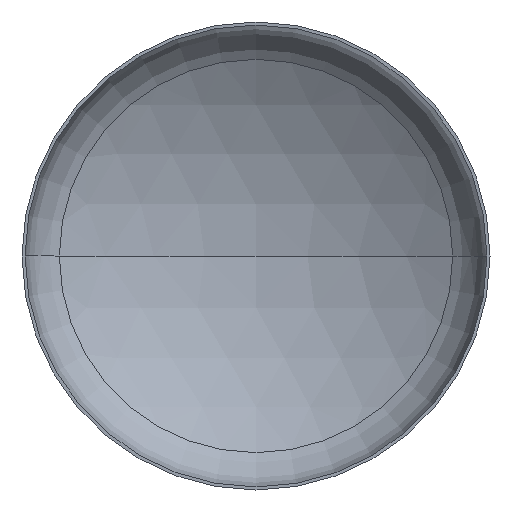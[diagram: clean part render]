
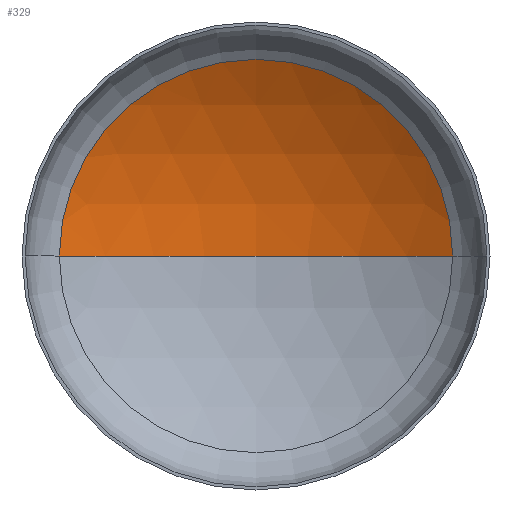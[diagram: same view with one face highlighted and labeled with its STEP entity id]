
A CAD part, front view. The second image highlights one B-rep face of the part: STEP entity #329.
In plain terms, the highlighted spherical face has radius 4800 mm.
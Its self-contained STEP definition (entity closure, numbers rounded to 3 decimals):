
#13 = ORIENTED_EDGE ( 'NONE', *, *, #18, .T. ) ;
#14 = ORIENTED_EDGE ( 'NONE', *, *, #36, .T. ) ;
#18 = EDGE_CURVE ( 'NONE', #62, #73, #206, .T. ) ;
#22 = ORIENTED_EDGE ( 'NONE', *, *, #46, .F. ) ;
#27 = CARTESIAN_POINT ( 'NONE',  ( 0., 1622.364, 0. ) ) ;
#36 = EDGE_CURVE ( 'NONE', #171, #62, #278, .T. ) ;
#46 = EDGE_CURVE ( 'NONE', #171, #73, #125, .T. ) ;
#62 = VERTEX_POINT ( 'NONE', #311 ) ;
#73 = VERTEX_POINT ( 'NONE', #209 ) ;
#89 = EDGE_LOOP ( 'NONE', ( #22, #14, #13 ) ) ;
#125 = CIRCLE ( 'NONE', #408, 4800. ) ;
#139 = AXIS2_PLACEMENT_3D ( 'NONE', #244, #400, #144 ) ;
#144 = DIRECTION ( 'NONE',  ( -1., 0., 0. ) ) ;
#171 = VERTEX_POINT ( 'NONE', #27 ) ;
#206 = CIRCLE ( 'NONE', #379, 2520.774 ) ;
#207 = CARTESIAN_POINT ( 'NONE',  ( 0., -3177.636, 0. ) ) ;
#209 = CARTESIAN_POINT ( 'NONE',  ( -2520.774, 907.178, 0. ) ) ;
#214 = SPHERICAL_SURFACE ( 'NONE', #139, 4800. ) ;
#215 = DIRECTION ( 'NONE',  ( -1., 0., 0. ) ) ;
#216 = DIRECTION ( 'NONE',  ( 0., 0., -1. ) ) ;
#228 = DIRECTION ( 'NONE',  ( 1., 0., 0. ) ) ;
#229 = DIRECTION ( 'NONE',  ( 0., -1., 0. ) ) ;
#230 = CARTESIAN_POINT ( 'NONE',  ( 0., 907.178, 0. ) ) ;
#244 = CARTESIAN_POINT ( 'NONE',  ( 0., -3177.636, 0. ) ) ;
#278 = CIRCLE ( 'NONE', #366, 4800. ) ;
#311 = CARTESIAN_POINT ( 'NONE',  ( 2520.774, 907.178, 0. ) ) ;
#312 = DIRECTION ( 'NONE',  ( 1., 0., 0. ) ) ;
#315 = DIRECTION ( 'NONE',  ( 0., 0., 1. ) ) ;
#317 = CARTESIAN_POINT ( 'NONE',  ( 0., -3177.636, 0. ) ) ;
#329 = ADVANCED_FACE ( 'NONE', ( #402 ), #214, .F. ) ;
#366 = AXIS2_PLACEMENT_3D ( 'NONE', #207, #216, #215 ) ;
#379 = AXIS2_PLACEMENT_3D ( 'NONE', #230, #229, #228 ) ;
#400 = DIRECTION ( 'NONE',  ( 0., 0., -1. ) ) ;
#402 = FACE_OUTER_BOUND ( 'NONE', #89, .T. ) ;
#408 = AXIS2_PLACEMENT_3D ( 'NONE', #317, #315, #312 ) ;
